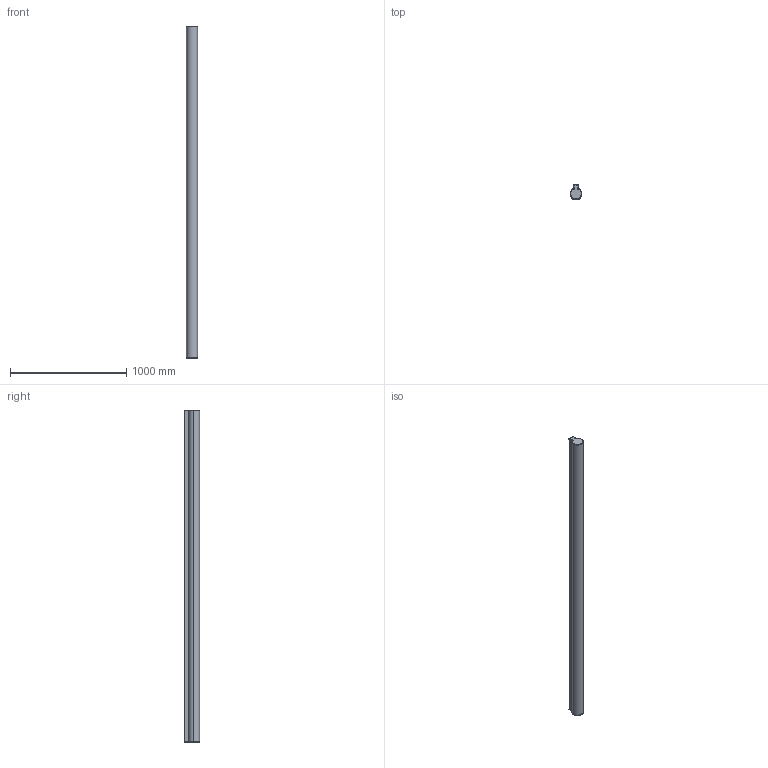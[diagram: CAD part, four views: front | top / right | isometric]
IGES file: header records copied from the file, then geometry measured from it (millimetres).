
Start section: SolidWorks IGES file using analytic representation for surfaces
Global section: file name: C:\Users\JoãoSantos\Desktop\02_3D.2D\01_2020\02_Linear\01_O975\01_Saliente\O975_2850.IGS; native system: SolidWorks 2020; preprocessor: SolidWorks 2020; author: JoãoSantos; date: 201021.111148; units: millimetre
Bounding box: 97.5 x 131.71 x 2850 mm (x, y, z)
Surface area: 2358988.6 mm2 (no closed solid volume)
Topology: 0 solids, 0 shells, 339 faces, 3550 edges, 3534 vertices
Faces by surface type: bspline 192, revolution 147
